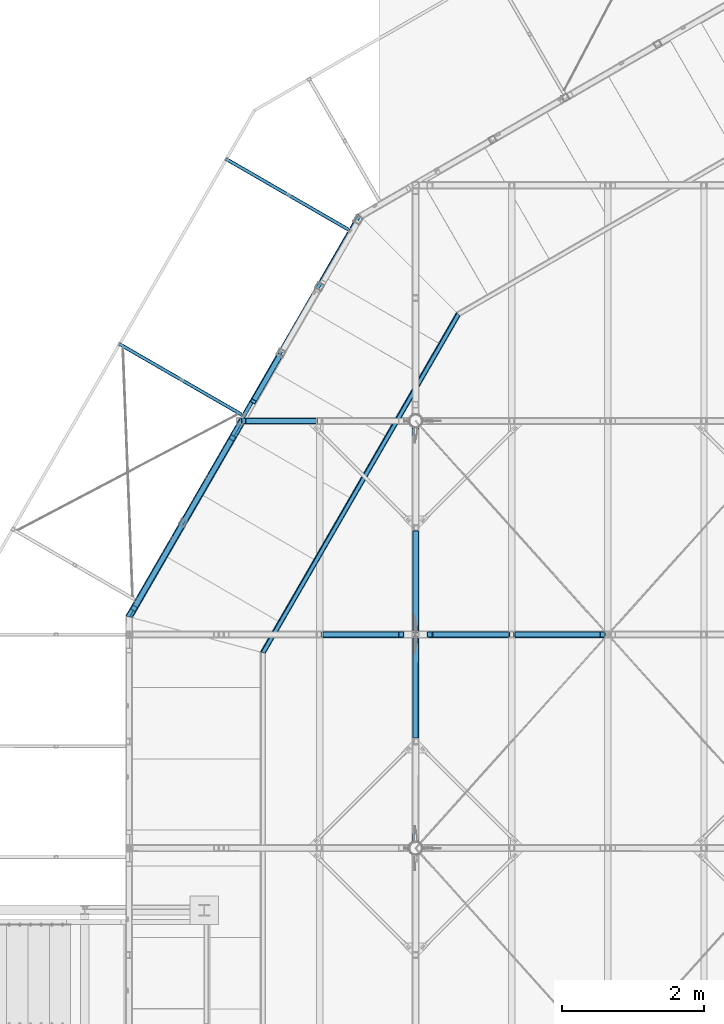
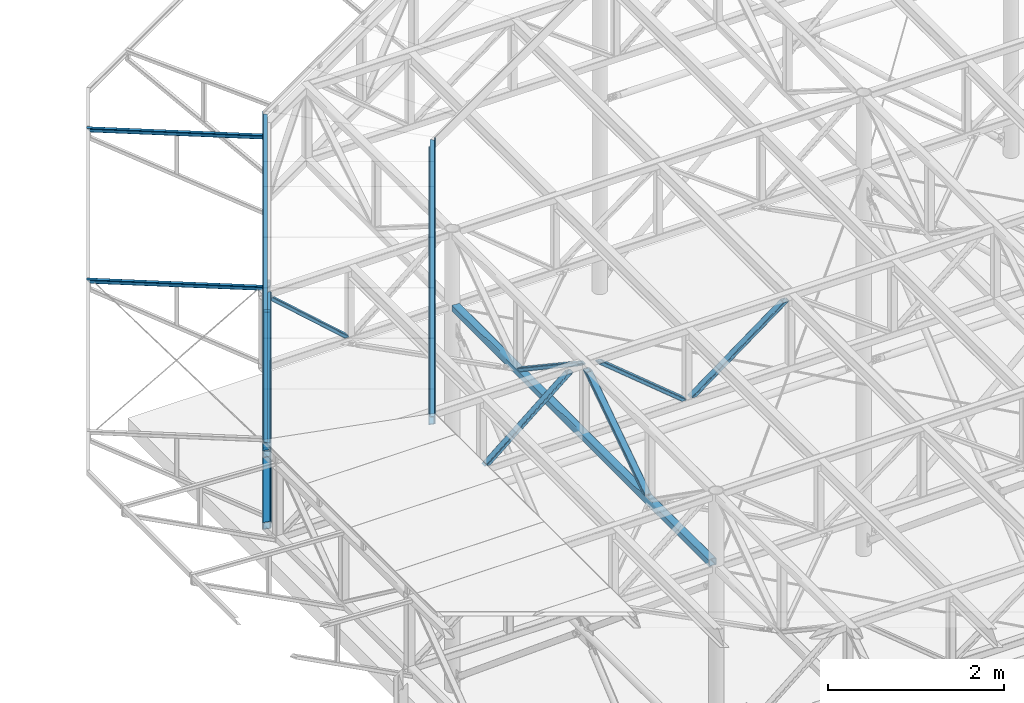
# One storey, part 52 of 132: 17 discrete accessories, 10 elements without a shape of their own.
"""IFC2X3 building model written with IfcOpenShell, lengths in millimetres."""

from ifc_helpers import new_model, si_unit, frame, origin_with_axes, origin_2d_with_axis, place, context, subcontext, project, spatial, hollow_rectangle, circle, l_section, extrude, boolean, clip, halfspace, material, type_object, element, aggregate, save


model = new_model("IFC2X3")

# Units and contexts
model_context = context("Model", 3, precision=1e-05, world=origin_with_axes())
body_context = subcontext(model_context, "Body", "Model", "MODEL_VIEW")
ifc_project = project(units=[si_unit("LENGTHUNIT", "METRE", prefix="MILLI"), si_unit("AREAUNIT", "SQUARE_METRE"), si_unit("VOLUMEUNIT", "CUBIC_METRE"), si_unit("MASSUNIT", "GRAM", prefix="KILO"), si_unit("TIMEUNIT", "SECOND"), si_unit("PLANEANGLEUNIT", "RADIAN"), si_unit("SOLIDANGLEUNIT", "STERADIAN"), si_unit("THERMODYNAMICTEMPERATUREUNIT", "DEGREE_CELSIUS"), si_unit("LUMINOUSINTENSITYUNIT", "LUMEN")], contexts=[model_context])

# Site, building, storey
site_placement = place(None, origin_with_axes())
site = spatial("IfcSite", under=ifc_project, at=site_placement, Name="Budowa", CompositionType="ELEMENT")
building_placement = place(site_placement, origin_with_axes())
building = spatial("IfcBuilding", under=site, at=building_placement, Name="Undefined", CompositionType="ELEMENT")
storey_placement = place(building_placement, origin_with_axes())
storey = spatial("IfcBuildingStorey", under=building, at=storey_placement, Name="Undefined", CompositionType="ELEMENT", Elevation=0.0)

# Assembly, discrete accessories
assembly_1_placement = place(storey_placement, origin_with_axes())
assembly_1 = element("IfcElementAssembly", 1, at=assembly_1_placement, inside=storey, Name="Steel Assembly", AssemblyPlace="NOTDEFINED", PredefinedType="RIGID_FRAME")
ifc_material = material(Name="STEEL/S235")
discrete_accessory_type = type_object("IfcDiscreteAccessoryType", Name="BEAM")
discrete_accessory_1_placement = place(assembly_1_placement, frame((3238.26153930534, 20897.7179420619, 14004.0), z_axis=(0.866033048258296, -0.499986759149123, 0.0), x_axis=(-0.499986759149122, -0.866033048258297, 0.0)))
discrete_accessory_1 = element("IfcDiscreteAccessory", 2, at=discrete_accessory_1_placement, type_object=discrete_accessory_type, material=ifc_material, Name="BEAM", ObjectType="L60*40*6", context=body_context, shape_type="Clipping", body=[
    clip(clip(extrude(l_section(Depth=60.0, Width=40.0, Thickness=6.0, FilletRadius=6.0, EdgeRadius=3.0, at=origin_2d_with_axis()), frame((6568.82853988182, 1.81898940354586e-12, 0.0), z_axis=(-1.0, 0.0, 0.0), x_axis=(0.0, -1.0, 0.0)), (0.0, 0.0, 1.0), 6613.27), halfspace(frame((6524.38602636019, 1.81898940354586e-12, -29.9999999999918), z_axis=(0.965927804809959, 0.0, 0.258811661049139), x_axis=(0.0, -1.0, 0.0)), False)), halfspace(frame((16.0785564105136, 1.81898940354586e-12, 30.000000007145), z_axis=(-0.965919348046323, 0.0, 0.258843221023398), x_axis=(0.0, -1.0, 0.0)), False)),
])
discrete_accessory_2_placement = place(assembly_1_placement, frame((4623.25244169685, 19492.5925759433, 13965.0), z_axis=(-0.86602545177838, 0.499999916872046, 0.0), x_axis=(-0.500000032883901, -0.866025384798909, 0.0)))
discrete_accessory_2 = element("IfcDiscreteAccessory", 3, at=discrete_accessory_2_placement, type_object=discrete_accessory_type, material=ifc_material, Name="BEAM", ObjectType="L50*6", context=body_context, shape_type="Clipping", body=[
    clip(clip(extrude(l_section(Depth=50.0, Width=50.0, Thickness=6.0, FilletRadius=7.0, EdgeRadius=3.5, at=origin_2d_with_axis()), frame((5526.24049167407, 0.0, 0.0), z_axis=(-1.0, 0.0, 0.0), x_axis=(0.0, -1.0, 0.0)), (0.0, 0.0, 1.0), 5576.68), halfspace(frame((5489.20494173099, 0.0, 25.0000000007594), z_axis=(0.965925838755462, 0.0, -0.2588189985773), x_axis=(0.0, 1.0, 0.0)), False)), halfspace(frame((-0.00287258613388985, 0.0, -25.0000000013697), z_axis=(-0.965925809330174, 0.0, -0.258819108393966), x_axis=(0.0, 1.0, 0.0)), False)),
])
aggregate(assembly_1, [discrete_accessory_1, discrete_accessory_2])

# Assembly, discrete accessory
assembly_2_placement = place(storey_placement, origin_with_axes())
assembly_2 = element("IfcElementAssembly", 4, at=assembly_2_placement, inside=storey, Name="Steel Assembly", AssemblyPlace="NOTDEFINED", PredefinedType="RIGID_FRAME")
discrete_accessory_3_placement = place(assembly_2_placement, frame((4619.01701715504, 19492.2566048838, 13955.0), z_axis=(0.0, 0.0, 1.0), x_axis=(-0.500000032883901, -0.866025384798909, 0.0)))
discrete_accessory_3 = element("IfcDiscreteAccessory", 5, at=discrete_accessory_3_placement, type_object=discrete_accessory_type, material=ifc_material, Name="BEAM", ObjectType="L150*75*9", context=body_context, shape_type="Clipping", body=[
    clip(clip(extrude(l_section(Depth=150.0, Width=75.0, Thickness=9.0, FilletRadius=10.5, EdgeRadius=5.5, at=origin_2d_with_axis()), frame((5546.63678901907, -3.07900193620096e-13, 0.0), z_axis=(-1.0, 0.0, 0.0), x_axis=(0.0, -1.0, 0.0)), (0.0, 0.0, 1.0), 5622.29), halfspace(frame((5491.08345655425, -37.500000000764, 0.0), z_axis=(0.965925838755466, 0.258818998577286, 0.0), x_axis=(0.0, 0.0, 1.0)), False)), halfspace(frame((1.9117578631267e-08, 37.5000000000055, -1.81898940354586e-12), z_axis=(-0.965925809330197, 0.258819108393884, 0.0), x_axis=(0.0, 0.0, 1.0)), False)),
])
aggregate(assembly_2, [discrete_accessory_3])

assembly_3_placement = place(storey_placement, origin_with_axes())
assembly_3 = element("IfcElementAssembly", 6, at=assembly_3_placement, inside=storey, Name="Steel Assembly", AssemblyPlace="NOTDEFINED", PredefinedType="RIGID_FRAME")
discrete_accessory_4_placement = place(assembly_3_placement, frame((1580.84141965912, 18089.3855184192, 13855.0311915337), z_axis=(0.499969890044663, 0.866042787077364, 0.0), x_axis=(-0.864962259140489, 0.499346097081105, 0.0499376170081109)))
discrete_accessory_4 = element("IfcDiscreteAccessory", 7, at=discrete_accessory_4_placement, type_object=discrete_accessory_type, material=ifc_material, Name="BEAM", ObjectType="SHS50*4", context=body_context, shape_type="Clipping", body=[
    clip(clip(extrude(hollow_rectangle(XDim=50.0, YDim=50.0, WallThickness=4.0, InnerFilletRadius=4.0, OuterFilletRadius=8.0, at=origin_2d_with_axis()), frame((2047.80222226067, -1.81898940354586e-12, -1.00153404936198e-12), z_axis=(-1.0, 0.0, 0.0), x_axis=(0.0, -1.0, 0.0)), (0.0, 0.0, 1.0), 2120.54), halfspace(frame((2002.59894631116, 25.0000000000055, -2.91038304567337e-11), z_axis=(-0.689225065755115, 0.724547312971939, 0.0), x_axis=(0.0, 0.0, 1.0)), True)), halfspace(frame((-1.21290213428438e-08, 25.0000000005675, 73.1665326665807), z_axis=(-0.998752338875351, 0.0499376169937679, 0.0), x_axis=(-0.0499376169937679, -0.998752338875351, 0.0)), False)),
])
aggregate(assembly_3, [discrete_accessory_4])

assembly_4_placement = place(storey_placement, origin_with_axes())
assembly_4 = element("IfcElementAssembly", 8, at=assembly_4_placement, inside=storey, Name="Steel Assembly", AssemblyPlace="NOTDEFINED", PredefinedType="RIGID_FRAME")
discrete_accessory_5_placement = place(assembly_4_placement, frame((3080.80169624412, 20687.484663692, 13855.0311915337), z_axis=(0.499969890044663, 0.866042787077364, 0.0), x_axis=(-0.864962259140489, 0.499346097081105, 0.0499376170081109)))
discrete_accessory_5 = element("IfcDiscreteAccessory", 9, at=discrete_accessory_5_placement, type_object=discrete_accessory_type, material=ifc_material, Name="BEAM", ObjectType="SHS50*4", context=body_context, shape_type="Clipping", body=[
    clip(clip(extrude(hollow_rectangle(XDim=50.0, YDim=50.0, WallThickness=4.0, InnerFilletRadius=4.0, OuterFilletRadius=8.0, at=origin_2d_with_axis()), frame((2047.80222226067, -1.81898940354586e-12, -1.00153404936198e-12), z_axis=(-1.0, 0.0, 0.0), x_axis=(0.0, -1.0, 0.0)), (0.0, 0.0, 1.0), 2120.54), halfspace(frame((2002.59894631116, 25.0000000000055, -2.91038304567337e-11), z_axis=(-0.689225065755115, 0.724547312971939, 0.0), x_axis=(0.0, 0.0, 1.0)), True)), halfspace(frame((-1.21290213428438e-08, 25.0000000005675, 73.1665326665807), z_axis=(-0.998752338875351, 0.0499376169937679, 0.0), x_axis=(-0.0499376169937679, -0.998752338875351, 0.0)), False)),
])
aggregate(assembly_4, [discrete_accessory_5])

# Assembly, discrete accessories
assembly_5_placement = place(storey_placement, origin_with_axes())
assembly_5 = element("IfcElementAssembly", 10, at=assembly_5_placement, inside=storey, Name="Steel Assembly", AssemblyPlace="NOTDEFINED", PredefinedType="RIGID_FRAME")
discrete_accessory_6_placement = place(assembly_5_placement, frame((760.301212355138, 16565.565121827, 12830.0000000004), z_axis=(-0.86602545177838, 0.499999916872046, 0.0), x_axis=(0.412062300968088, 0.713712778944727, 0.566408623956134)))
solid_1 = boolean("DIFFERENCE", boolean("DIFFERENCE", extrude(hollow_rectangle(XDim=90.0, YDim=90.0, WallThickness=4.0, InnerFilletRadius=4.0, OuterFilletRadius=8.0, at=origin_2d_with_axis()), frame((538.088192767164, -782.918320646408, 9.82236597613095e-08), z_axis=(-0.566408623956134, 0.824124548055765, -1.04792036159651e-10), x_axis=(0.0, 0.0, -1.0)), (0.0, 0.0, 1.0), 900.0), halfspace(frame((-286.03635719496, -1349.32694591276, 5.13791746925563e-08), z_axis=(-0.566408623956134, 0.824124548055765, -1.04792036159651e-10), x_axis=(0.824124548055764, 0.566408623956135, 1.52471329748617e-10)), True)), halfspace(frame((-795.804118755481, -607.614852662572, 1.45691046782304e-07), z_axis=(0.566408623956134, -0.824124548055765, 1.04790926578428e-10), x_axis=(0.824124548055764, 0.566408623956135, 1.52471329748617e-10)), True))
discrete_accessory_6 = element("IfcDiscreteAccessory", 11, at=discrete_accessory_6_placement, type_object=discrete_accessory_type, material=ifc_material, Name="BEAM", ObjectType="RHS80*40*4", context=body_context, shape_type="CSG", body=[
    boolean("DIFFERENCE", boolean("DIFFERENCE", boolean("DIFFERENCE", extrude(hollow_rectangle(XDim=40.0, YDim=80.0, WallThickness=4.0, InnerFilletRadius=4.0, OuterFilletRadius=8.0, at=origin_2d_with_axis()), frame((1787.39149860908, -1.98440319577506e-13, -3.60765181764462e-12), z_axis=(-1.0, 0.0, 0.0), x_axis=(0.0, -1.0, 0.0)), (0.0, 0.0, 1.0), 1809.27), solid_1), halfspace(frame((1737.18941028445, 41.2062274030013, 999.999999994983), z_axis=(-0.566408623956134, 0.824124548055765, -1.04792036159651e-10), x_axis=(-0.824124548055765, -0.566408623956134, -1.52471329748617e-10)), True)), halfspace(frame((28.3204310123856, -41.2062274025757, 1000.00000000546), z_axis=(0.566408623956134, -0.824124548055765, 1.04790926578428e-10), x_axis=(0.824124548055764, 0.566408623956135, 1.52471329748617e-10)), True)),
])
discrete_accessory_7_placement = place(assembly_5_placement, frame((760.301212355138, 16565.565121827, 12830.0000000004), z_axis=(-0.86602545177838, 0.499999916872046, 0.0), x_axis=(-0.412062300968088, -0.713712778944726, 0.566408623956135)))
solid_2 = boolean("DIFFERENCE", boolean("DIFFERENCE", extrude(hollow_rectangle(XDim=90.0, YDim=90.0, WallThickness=4.0, InnerFilletRadius=4.0, OuterFilletRadius=8.0, at=origin_2d_with_axis()), frame((538.088190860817, 782.918321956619, -1.00875396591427e-07), z_axis=(-0.566408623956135, -0.824124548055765, 1.04791647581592e-10), x_axis=(0.0, 0.0, -1.0)), (0.0, 0.0, 1.0), 900.0), halfspace(frame((1362.21274082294, 216.509696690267, 2.50475750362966e-07), z_axis=(-0.566408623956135, -0.824124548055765, 1.04791647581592e-10), x_axis=(-0.824124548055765, 0.566408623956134, 1.52474967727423e-10)), True)), halfspace(frame((852.444979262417, -525.202396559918, 1.56162059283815e-07), z_axis=(0.566408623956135, 0.824124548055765, -1.04794017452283e-10), x_axis=(-0.824124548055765, 0.566408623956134, 1.52474967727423e-10)), True))
discrete_accessory_7 = element("IfcDiscreteAccessory", 12, at=discrete_accessory_7_placement, type_object=discrete_accessory_type, material=ifc_material, Name="BEAM", ObjectType="RHS80*40*4", context=body_context, shape_type="CSG", body=[
    boolean("DIFFERENCE", boolean("DIFFERENCE", boolean("DIFFERENCE", extrude(hollow_rectangle(XDim=40.0, YDim=80.0, WallThickness=4.0, InnerFilletRadius=4.0, OuterFilletRadius=8.0, at=origin_2d_with_axis()), frame((1787.39149860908, -1.98440319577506e-13, -3.60765181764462e-12), z_axis=(-1.0, 0.0, 0.0), x_axis=(0.0, -1.0, 0.0)), (0.0, 0.0, 1.0), 1809.27), solid_2), halfspace(frame((1737.18941065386, -41.2062274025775, 1000.00000000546), z_axis=(-0.566408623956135, -0.824124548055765, 1.04791647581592e-10), x_axis=(0.824124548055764, -0.566408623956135, -1.52471329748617e-10)), True)), halfspace(frame((28.3204313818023, 41.2062274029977, 999.999999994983), z_axis=(0.566408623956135, 0.824124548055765, -1.04794017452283e-10), x_axis=(-0.824124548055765, 0.566408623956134, 1.52474967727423e-10)), True)),
])
discrete_accessory_8_placement = place(assembly_5_placement, frame((1545.40126904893, 17925.3981897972, 12830.0), z_axis=(-0.86602545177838, 0.499999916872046, 0.0), x_axis=(-0.500000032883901, -0.866025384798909, 0.0)))
discrete_accessory_8 = element("IfcDiscreteAccessory", 13, at=discrete_accessory_8_placement, type_object=discrete_accessory_type, material=ifc_material, Name="BEAM", ObjectType="SHS100*8", context=body_context, shape_type="Clipping", body=[
    clip(clip(extrude(hollow_rectangle(XDim=100.0, YDim=100.0, WallThickness=8.0, InnerFilletRadius=8.0, OuterFilletRadius=16.0, at=origin_2d_with_axis()), frame((3156.92730982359, 0.0, 0.0), z_axis=(-1.0, 0.0, 0.0), x_axis=(0.0, -1.0, 0.0)), (0.0, 0.0, 1.0), 3251.23), halfspace(frame((3104.20001122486, 0.0, 49.99999999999), z_axis=(0.965925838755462, 0.0, -0.2588189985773), x_axis=(0.0, 1.0, 0.0)), False)), halfspace(frame((0.518048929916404, 50.0, 49.7009042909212), z_axis=(0.866025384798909, 0.0, -0.5000000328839), x_axis=(-0.5000000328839, 0.0, -0.866025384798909)), True)),
])
discrete_accessory_9_placement = place(assembly_5_placement, frame((1545.40126904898, 17925.3981897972, 13830.0), z_axis=(-0.86602545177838, 0.499999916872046, 0.0), x_axis=(-0.500000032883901, -0.866025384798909, 0.0)))
discrete_accessory_9 = element("IfcDiscreteAccessory", 14, at=discrete_accessory_9_placement, type_object=discrete_accessory_type, material=ifc_material, Name="BEAM", ObjectType="SHS100*8", context=body_context, shape_type="Clipping", body=[
    clip(clip(extrude(hollow_rectangle(XDim=100.0, YDim=100.0, WallThickness=8.0, InnerFilletRadius=8.0, OuterFilletRadius=16.0, at=origin_2d_with_axis()), frame((3156.92730982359, 0.0, 0.0), z_axis=(-1.0, 0.0, 0.0), x_axis=(0.0, -1.0, 0.0)), (0.0, 0.0, 1.0), 3251.23), halfspace(frame((3104.20001122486, 0.0, 49.99999999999), z_axis=(0.965925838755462, 0.0, -0.2588189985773), x_axis=(0.0, 1.0, 0.0)), False)), halfspace(frame((0.518048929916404, 50.0, 49.7009042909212), z_axis=(0.866025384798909, 0.0, -0.5000000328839), x_axis=(-0.5000000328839, 0.0, -0.866025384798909)), True)),
])
aggregate(assembly_5, [discrete_accessory_6, discrete_accessory_7, discrete_accessory_8, discrete_accessory_9])

# Assembly, discrete accessory
assembly_6_placement = place(storey_placement, origin_with_axes())
assembly_6 = element("IfcElementAssembly", 15, at=assembly_6_placement, inside=storey, Name="Steel Assembly", AssemblyPlace="NOTDEFINED", PredefinedType="RIGID_FRAME")
discrete_accessory_10_placement = place(assembly_6_placement, frame((1725.39844916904, 18237.3625633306, 13830.0000000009), z_axis=(-0.86602545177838, 0.499999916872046, 0.0), x_axis=(0.317961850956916, 0.550726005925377, -0.771751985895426)))
solid_3 = boolean("DIFFERENCE", boolean("DIFFERENCE", extrude(hollow_rectangle(XDim=100.0, YDim=100.0, WallThickness=4.0, InnerFilletRadius=4.0, OuterFilletRadius=8.0, at=origin_2d_with_axis()), frame((562.315003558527, -603.795327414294, 8.65720911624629e-08), z_axis=(0.771751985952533, 0.63592363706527, -7.13974205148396e-11), x_axis=(-0.635923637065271, 0.771751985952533, 5.8831574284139e-11)), (0.0, 0.0, 1.0), 900.0), halfspace(frame((562.315003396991, -603.795327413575, 1000.00000008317), z_axis=(0.771751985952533, 0.63592363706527, -7.13974205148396e-11), x_axis=(0.0, 0.0, -1.0)), True)), halfspace(frame((1256.89179070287, -31.4640539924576, 1000.00000019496), z_axis=(-0.771751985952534, -0.635923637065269, 7.1397709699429e-11), x_axis=(0.0, 0.0, -1.0)), True))
discrete_accessory_10 = element("IfcDiscreteAccessory", 16, at=discrete_accessory_10_placement, type_object=discrete_accessory_type, material=ifc_material, Name="BEAM", ObjectType="RHS80*40*4", context=body_context, shape_type="CSG", body=[
    boolean("DIFFERENCE", boolean("DIFFERENCE", boolean("DIFFERENCE", extrude(hollow_rectangle(XDim=40.0, YDim=80.0, WallThickness=4.0, InnerFilletRadius=4.0, OuterFilletRadius=8.0, at=origin_2d_with_axis()), frame((1286.18037682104, -1.81898940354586e-12, 9.30315642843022e-13), z_axis=(-1.0, 0.0, 0.0), x_axis=(0.0, -1.0, 0.0)), (0.0, 0.0, 1.0), 1276.61), solid_3), halfspace(frame((1257.16546421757, -31.7961818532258, 1000.0000000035), z_axis=(-0.771751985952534, -0.635923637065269, 7.1397709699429e-11), x_axis=(0.635923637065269, -0.771751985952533, -5.88306647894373e-11)), True)), halfspace(frame((38.5875993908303, 31.7961818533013, 999.999999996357), z_axis=(0.771751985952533, 0.63592363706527, -7.13974205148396e-11), x_axis=(-0.635923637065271, 0.771751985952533, 5.8831574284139e-11)), True)),
])
aggregate(assembly_6, [discrete_accessory_10])

assembly_7_placement = place(storey_placement, origin_with_axes())
assembly_7 = element("IfcElementAssembly", 17, at=assembly_7_placement, inside=storey, Name="Steel Assembly", AssemblyPlace="NOTDEFINED", PredefinedType="RIGID_FRAME")
discrete_accessory_11_placement = place(assembly_7_placement, frame((1552.09999979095, 18000.0000000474, 13830.0000000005), z_axis=(0.0, -1.0, 0.0), x_axis=(0.747115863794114, 0.0, -0.664693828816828)))
solid_4 = boolean("DIFFERENCE", boolean("DIFFERENCE", extrude(hollow_rectangle(XDim=100.0, YDim=100.0, WallThickness=8.0, InnerFilletRadius=8.0, OuterFilletRadius=16.0, at=origin_2d_with_axis()), frame((631.459137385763, -709.760070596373, 3.71073838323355e-10), z_axis=(-0.664693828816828, 0.747115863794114, 0.0), x_axis=(0.0, 0.0, 1.0)), (0.0, 0.0, 1.0), 900.0), halfspace(frame((1378.57500117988, -45.0662417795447, 3.71073838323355e-10), z_axis=(-0.664693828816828, 0.747115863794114, 0.0), x_axis=(-0.747115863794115, -0.664693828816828, 0.0)), True)), halfspace(frame((780.350555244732, 627.338035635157, 3.71073838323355e-10), z_axis=(0.664693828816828, -0.747115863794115, 0.0), x_axis=(-0.747115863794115, -0.664693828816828, 0.0)), True))
solid_5 = boolean("DIFFERENCE", boolean("DIFFERENCE", extrude(hollow_rectangle(XDim=90.0, YDim=90.0, WallThickness=6.0, InnerFilletRadius=6.0, OuterFilletRadius=12.0, at=origin_2d_with_axis()), frame((1471.21736829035, 37.3557929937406, 3.71073838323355e-10), z_axis=(-0.664693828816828, 0.747115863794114, 0.0), x_axis=(0.0, 0.0, 1.0)), (0.0, 0.0, 1.0), 900.0), halfspace(frame((2218.33323208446, 702.049621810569, 3.71073838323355e-10), z_axis=(-0.664693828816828, 0.747115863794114, 0.0), x_axis=(-0.747115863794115, -0.664693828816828, 0.0)), True)), halfspace(frame((1620.10878614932, 1374.45389922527, 3.71073838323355e-10), z_axis=(0.664693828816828, -0.747115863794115, 0.0), x_axis=(-0.747115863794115, -0.664693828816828, 0.0)), True))
discrete_accessory_11 = element("IfcDiscreteAccessory", 18, at=discrete_accessory_11_placement, type_object=discrete_accessory_type, material=ifc_material, Name="BEAM", ObjectType="RHS90*50*5", context=body_context, shape_type="CSG", body=[
    boolean("DIFFERENCE", boolean("DIFFERENCE", boolean("DIFFERENCE", boolean("DIFFERENCE", extrude(hollow_rectangle(XDim=50.0, YDim=90.0, WallThickness=5.0, InnerFilletRadius=7.5, OuterFilletRadius=12.5, at=origin_2d_with_axis()), frame((1442.35927093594, 0.0, 0.0), z_axis=(-1.0, 0.0, 0.0), x_axis=(0.0, -1.0, 0.0)), (0.0, 0.0, 1.0), 1380.27), solid_4), solid_5), halfspace(frame((1471.21736851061, 37.3557931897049, 1000.0), z_axis=(-0.664693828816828, 0.747115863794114, 0.0), x_axis=(-0.747115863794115, -0.664693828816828, 0.0)), True)), halfspace(frame((33.2346914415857, -37.3557931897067, 1000.0), z_axis=(0.664693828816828, -0.747115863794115, 0.0), x_axis=(0.747115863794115, 0.664693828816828, 0.0)), True)),
])
aggregate(assembly_7, [discrete_accessory_11])

assembly_8_placement = place(storey_placement, origin_with_axes())
assembly_8 = element("IfcElementAssembly", 19, at=assembly_8_placement, inside=storey, Name="Steel Assembly", AssemblyPlace="NOTDEFINED", PredefinedType="RIGID_FRAME")
discrete_accessory_12_placement = place(assembly_8_placement, frame((3884.0999999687, 15000.0000000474, 13830.0000000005), z_axis=(0.0, -1.0, 0.0), x_axis=(-0.77030791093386, 0.0, -0.637672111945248)))
solid_6 = boolean("DIFFERENCE", boolean("DIFFERENCE", extrude(hollow_rectangle(XDim=90.0, YDim=90.0, WallThickness=6.0, InnerFilletRadius=6.0, OuterFilletRadius=12.0, at=origin_2d_with_axis()), frame((1536.32046276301, -38.5153958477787, 3.71073838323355e-10), z_axis=(-0.637672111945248, -0.770307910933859, 0.0), x_axis=(0.0, 0.0, 1.0)), (0.0, 0.0, 1.0), 900.0), halfspace(frame((766.012551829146, 599.156716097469, 3.71073838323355e-10), z_axis=(-0.637672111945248, -0.770307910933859, 0.0), x_axis=(0.77030791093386, -0.637672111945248, 0.0)), True)), halfspace(frame((192.107651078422, -94.1204037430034, 3.71073838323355e-10), z_axis=(0.637672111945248, 0.770307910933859, 0.0), x_axis=(0.77030791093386, -0.637672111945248, 0.0)), True))
discrete_accessory_12 = element("IfcDiscreteAccessory", 20, at=discrete_accessory_12_placement, type_object=discrete_accessory_type, material=ifc_material, Name="BEAM", ObjectType="RHS90*50*5", context=body_context, shape_type="CSG", body=[
    boolean("DIFFERENCE", boolean("DIFFERENCE", boolean("DIFFERENCE", extrude(hollow_rectangle(XDim=50.0, YDim=90.0, WallThickness=5.0, InnerFilletRadius=7.5, OuterFilletRadius=12.5, at=origin_2d_with_axis()), frame((1532.27723418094, -9.9455317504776e-13, 0.0), z_axis=(-1.0, 0.0, 0.0), x_axis=(0.0, -1.0, 0.0)), (0.0, 0.0, 1.0), 1496.35), solid_6), halfspace(frame((1536.3204623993, -38.515395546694, 1000.0), z_axis=(-0.637672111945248, -0.770307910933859, 0.0), x_axis=(0.77030791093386, -0.637672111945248, 0.0)), True)), halfspace(frame((31.8836055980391, 38.5153955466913, 1000.0), z_axis=(0.637672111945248, 0.770307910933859, 0.0), x_axis=(-0.770307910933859, 0.637672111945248, 0.0)), True)),
])
aggregate(assembly_8, [discrete_accessory_12])

# Assembly, discrete accessories
assembly_9_placement = place(storey_placement, origin_with_axes())
assembly_9 = element("IfcElementAssembly", 21, at=assembly_9_placement, inside=storey, Name="Steel Assembly", AssemblyPlace="NOTDEFINED", PredefinedType="RIGID_FRAME")
discrete_accessory_13_placement = place(assembly_9_placement, frame((4165.99999993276, 15000.0000000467, 13830.0), z_axis=(0.0, -1.0, 0.0), x_axis=(0.770567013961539, 0.0, -0.637358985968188)))
solid_7 = boolean("DIFFERENCE", boolean("DIFFERENCE", extrude(hollow_rectangle(XDim=90.0, YDim=90.0, WallThickness=6.0, InnerFilletRadius=6.0, OuterFilletRadius=12.0, at=origin_2d_with_axis()), frame((1537.1065565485, 38.528350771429, -6.22094376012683e-10), z_axis=(-0.637358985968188, 0.770567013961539, 0.0), x_axis=(-0.770567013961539, -0.637358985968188, 0.0)), (0.0, 0.0, 1.0), 900.0), halfspace(frame((1537.1065565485, 38.5283507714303, 999.999999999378), z_axis=(-0.637358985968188, 0.770567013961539, 0.0), x_axis=(-0.770567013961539, -0.637358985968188, 0.0)), True)), halfspace(frame((963.483469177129, 732.038663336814, 999.999999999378), z_axis=(0.637358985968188, -0.770567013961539, 0.0), x_axis=(0.770567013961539, 0.637358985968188, 0.0)), True))
discrete_accessory_13 = element("IfcDiscreteAccessory", 22, at=discrete_accessory_13_placement, type_object=discrete_accessory_type, material=ifc_material, Name="BEAM", ObjectType="RHS90*50*5", context=body_context, shape_type="CSG", body=[
    boolean("DIFFERENCE", boolean("DIFFERENCE", boolean("DIFFERENCE", extrude(hollow_rectangle(XDim=50.0, YDim=90.0, WallThickness=5.0, InnerFilletRadius=7.5, OuterFilletRadius=12.5, at=origin_2d_with_axis()), frame((1533.07734352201, 2.27373675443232e-12, 0.0), z_axis=(-1.0, 0.0, 0.0), x_axis=(0.0, -1.0, 0.0)), (0.0, 0.0, 1.0), 1497.18), solid_7), halfspace(frame((1537.1065565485, 38.5283507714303, 999.999999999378), z_axis=(-0.637358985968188, 0.770567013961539, 0.0), x_axis=(-0.770567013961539, -0.637358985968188, 0.0)), True)), halfspace(frame((31.867949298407, -38.5283506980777, 1000.0), z_axis=(0.637358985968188, -0.770567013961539, 0.0), x_axis=(0.770567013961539, 0.637358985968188, 0.0)), True)),
])
discrete_accessory_14_placement = place(assembly_9_placement, frame((6724.99999993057, 15000.0000000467, 13830.0), z_axis=(0.0, -1.0, 0.0), x_axis=(-0.803557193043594, 0.0, -0.595227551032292)))
solid_8 = boolean("DIFFERENCE", boolean("DIFFERENCE", extrude(hollow_rectangle(XDim=90.0, YDim=90.0, WallThickness=6.0, InnerFilletRadius=6.0, OuterFilletRadius=12.0, at=origin_2d_with_axis()), frame((565.466173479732, 763.379333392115, -6.22094376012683e-10), z_axis=(-0.595227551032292, -0.803557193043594, 0.0), x_axis=(0.803557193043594, -0.595227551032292, 0.0)), (0.0, 0.0, 1.0), 900.0), halfspace(frame((565.46617347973, 763.379333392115, 999.999999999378), z_axis=(-0.595227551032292, -0.803557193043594, 0.0), x_axis=(0.803557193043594, -0.595227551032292, 0.0)), True)), halfspace(frame((29.7613775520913, 40.1778596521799, 1000.0), z_axis=(0.595227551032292, 0.803557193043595, 0.0), x_axis=(-0.803557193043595, 0.595227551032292, 0.0)), True))
solid_9 = boolean("DIFFERENCE", boolean("DIFFERENCE", extrude(hollow_rectangle(XDim=90.0, YDim=90.0, WallThickness=6.0, InnerFilletRadius=6.0, OuterFilletRadius=12.0, at=origin_2d_with_axis()), frame((1650.26838408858, -40.1778605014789, -6.22094376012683e-10), z_axis=(-0.595227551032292, -0.803557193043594, 0.0), x_axis=(0.803557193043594, -0.595227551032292, 0.0)), (0.0, 0.0, 1.0), 900.0), halfspace(frame((1650.2683829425, -40.1778596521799, 1000.0), z_axis=(-0.595227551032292, -0.803557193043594, 0.0), x_axis=(0.803557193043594, -0.595227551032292, 0.0)), True)), halfspace(frame((1114.56358815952, -763.379334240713, 999.999999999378), z_axis=(0.595227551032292, 0.803557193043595, 0.0), x_axis=(-0.803557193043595, 0.595227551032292, 0.0)), True))
discrete_accessory_14 = element("IfcDiscreteAccessory", 23, at=discrete_accessory_14_placement, type_object=discrete_accessory_type, material=ifc_material, Name="BEAM", ObjectType="RHS90*50*5", context=body_context, shape_type="CSG", body=[
    boolean("DIFFERENCE", boolean("DIFFERENCE", boolean("DIFFERENCE", boolean("DIFFERENCE", extrude(hollow_rectangle(XDim=50.0, YDim=90.0, WallThickness=5.0, InnerFilletRadius=7.5, OuterFilletRadius=12.5, at=origin_2d_with_axis()), frame((1632.54994793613, 0.0, 0.0), z_axis=(-1.0, 0.0, 0.0), x_axis=(0.0, -1.0, 0.0)), (0.0, 0.0, 1.0), 1585.07), solid_8), solid_9), halfspace(frame((1650.2683829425, -40.1778596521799, 1000.0), z_axis=(-0.595227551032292, -0.803557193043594, 0.0), x_axis=(0.803557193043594, -0.595227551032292, 0.0)), True)), halfspace(frame((29.7613775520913, 40.1778596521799, 1000.0), z_axis=(0.595227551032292, 0.803557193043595, 0.0), x_axis=(-0.803557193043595, 0.595227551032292, 0.0)), True)),
])
aggregate(assembly_9, [discrete_accessory_13, discrete_accessory_14])

assembly_10_placement = place(storey_placement, origin_with_axes())
assembly_10 = element("IfcElementAssembly", 24, at=assembly_10_placement, inside=storey, Name="Steel Assembly", AssemblyPlace="NOTDEFINED", PredefinedType="RIGID_FRAME")
discrete_accessory_15_placement = place(assembly_10_placement, frame((4024.99999991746, 16499.8000000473, 12829.9999999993), z_axis=(1.0, 0.0, 0.0), x_axis=(0.0, -0.832050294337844, 0.554700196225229)))
solid_10 = boolean("DIFFERENCE", boolean("DIFFERENCE", extrude(hollow_rectangle(XDim=90.0, YDim=90.0, WallThickness=6.0, InnerFilletRadius=6.0, OuterFilletRadius=12.0, at=origin_2d_with_axis()), frame((27.5685997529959, -41.7134547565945, 2.20825313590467e-09), z_axis=(0.554700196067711, -0.832050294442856, 1.11090858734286e-10), x_axis=(0.832050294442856, 0.554700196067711, 1.66635594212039e-10)), (0.0, 0.0, 1.0), 900.0), halfspace(frame((27.5685997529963, -41.7134547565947, 1000.00000000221), z_axis=(0.554700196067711, -0.832050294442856, 1.11090858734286e-10), x_axis=(0.832050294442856, 0.554700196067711, 1.66635594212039e-10)), True)), halfspace(frame((526.798776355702, -790.558719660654, 1000.00000000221), z_axis=(-0.554700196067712, 0.832050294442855, -1.1109021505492e-10), x_axis=(-0.832050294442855, -0.554700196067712, -1.66634890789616e-10)), True))
solid_11 = boolean("DIFFERENCE", boolean("DIFFERENCE", extrude(hollow_rectangle(XDim=90.0, YDim=90.0, WallThickness=6.0, InnerFilletRadius=6.0, OuterFilletRadius=12.0, at=origin_2d_with_axis()), frame((1275.64404125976, 790.336839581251, 2.20825313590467e-09), z_axis=(0.554700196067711, -0.832050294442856, 1.11090858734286e-10), x_axis=(0.832050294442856, 0.554700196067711, 1.66635594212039e-10)), (0.0, 0.0, 1.0), 900.0), halfspace(frame((1275.64404125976, 790.33683958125, 1000.00000000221), z_axis=(0.554700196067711, -0.832050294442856, 1.11090858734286e-10), x_axis=(0.832050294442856, 0.554700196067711, 1.66635594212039e-10)), True)), halfspace(frame((1774.87421786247, 41.4915746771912, 1000.00000000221), z_axis=(-0.554700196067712, 0.832050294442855, -1.1109021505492e-10), x_axis=(-0.832050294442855, -0.554700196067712, -1.66634890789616e-10)), True))
discrete_accessory_15 = element("IfcDiscreteAccessory", 25, at=discrete_accessory_15_placement, type_object=discrete_accessory_type, material=ifc_material, Name="BEAM", ObjectType="RHS90*50*5", context=body_context, shape_type="CSG", body=[
    boolean("DIFFERENCE", boolean("DIFFERENCE", boolean("DIFFERENCE", boolean("DIFFERENCE", extrude(hollow_rectangle(XDim=50.0, YDim=90.0, WallThickness=5.0, InnerFilletRadius=7.5, OuterFilletRadius=12.5, at=origin_2d_with_axis()), frame((1763.05910368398, 0.0, 0.0), z_axis=(-1.0, 0.0, 0.0), x_axis=(0.0, -1.0, 0.0)), (0.0, 0.0, 1.0), 1723.34), solid_10), solid_11), halfspace(frame((1775.04062824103, 41.6025147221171, 999.999999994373), z_axis=(-0.554700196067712, 0.832050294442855, -1.1109021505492e-10), x_axis=(-0.832050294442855, -0.554700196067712, -1.66634890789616e-10)), True)), halfspace(frame((27.7350096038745, -41.6025147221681, 1000.00000000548), z_axis=(0.554700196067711, -0.832050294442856, 1.11090858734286e-10), x_axis=(0.832050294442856, 0.554700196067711, 1.66635594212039e-10)), True)),
])
discrete_accessory_16_placement = place(assembly_10_placement, frame((4024.99999991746, 13500.0000000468, 12829.9999999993), z_axis=(1.0, 0.0, 0.0), x_axis=(0.0, 0.832050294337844, 0.554700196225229)))
solid_12 = boolean("DIFFERENCE", boolean("DIFFERENCE", extrude(hollow_rectangle(XDim=90.0, YDim=90.0, WallThickness=6.0, InnerFilletRadius=6.0, OuterFilletRadius=12.0, at=origin_2d_with_axis()), frame((1275.81045145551, -790.447779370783, -2.51850795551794e-07), z_axis=(0.554700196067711, 0.832050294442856, -1.11090858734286e-10), x_axis=(-0.832050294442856, 0.554700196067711, 1.66634595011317e-10)), (0.0, 0.0, 1.0), 900.0), halfspace(frame((1275.81045165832, -790.447779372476, 999.999999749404), z_axis=(0.554700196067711, 0.832050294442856, -1.11090858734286e-10), x_axis=(-0.832050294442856, 0.554700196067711, 1.66634595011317e-10)), True)), halfspace(frame((1775.04062811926, -41.6025143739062, 999.999999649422), z_axis=(-0.554700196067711, -0.832050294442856, 1.11091980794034e-10), x_axis=(0.832050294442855, -0.554700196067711, -1.66634436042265e-10)), True))
solid_13 = boolean("DIFFERENCE", boolean("DIFFERENCE", extrude(hollow_rectangle(XDim=90.0, YDim=90.0, WallThickness=6.0, InnerFilletRadius=6.0, OuterFilletRadius=12.0, at=origin_2d_with_axis()), frame((27.7350097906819, 41.6025147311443, -4.89933715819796e-09), z_axis=(0.554700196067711, 0.832050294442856, -1.11090858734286e-10), x_axis=(-0.832050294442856, 0.554700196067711, 1.66634595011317e-10)), (0.0, 0.0, 1.0), 900.0), halfspace(frame((27.7350099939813, 41.6025147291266, 999.999999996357), z_axis=(0.554700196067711, 0.832050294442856, -1.11090858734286e-10), x_axis=(-0.832050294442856, 0.554700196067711, 1.66634595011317e-10)), True)), halfspace(frame((526.965186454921, 790.447779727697, 999.999999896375), z_axis=(-0.554700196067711, -0.832050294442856, 1.11091980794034e-10), x_axis=(0.832050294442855, -0.554700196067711, -1.66634436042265e-10)), True))
discrete_accessory_16 = element("IfcDiscreteAccessory", 26, at=discrete_accessory_16_placement, type_object=discrete_accessory_type, material=ifc_material, Name="BEAM", ObjectType="RHS90*50*5", context=body_context, shape_type="CSG", body=[
    boolean("DIFFERENCE", boolean("DIFFERENCE", boolean("DIFFERENCE", boolean("DIFFERENCE", extrude(hollow_rectangle(XDim=50.0, YDim=90.0, WallThickness=5.0, InnerFilletRadius=7.5, OuterFilletRadius=12.5, at=origin_2d_with_axis()), frame((1763.05910368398, 0.0, 0.0), z_axis=(-1.0, 0.0, 0.0), x_axis=(0.0, -1.0, 0.0)), (0.0, 0.0, 1.0), 1723.34), solid_12), solid_13), halfspace(frame((1775.04062811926, -41.6025143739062, 999.999999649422), z_axis=(-0.554700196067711, -0.832050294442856, 1.11091980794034e-10), x_axis=(0.832050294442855, -0.554700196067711, -1.66634436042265e-10)), True)), halfspace(frame((27.7350099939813, 41.6025147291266, 999.999999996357), z_axis=(0.554700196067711, 0.832050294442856, -1.11090858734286e-10), x_axis=(-0.832050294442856, 0.554700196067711, 1.66634595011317e-10)), True)),
])
discrete_accessory_17_placement = place(assembly_10_placement, frame((4024.99999991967, 12088.900000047, 12830.0), z_axis=(1.0, 0.0, 0.0), x_axis=(0.0, 1.0, 0.0)))
discrete_accessory_17 = element("IfcDiscreteAccessory", 27, at=discrete_accessory_17_placement, type_object=discrete_accessory_type, material=ifc_material, Name="BEAM", ObjectType="SHS100*8", context=body_context, shape_type="CSG", body=[
    boolean("DIFFERENCE", boolean("DIFFERENCE", boolean("DIFFERENCE", boolean("DIFFERENCE", extrude(hollow_rectangle(XDim=100.0, YDim=100.0, WallThickness=8.0, InnerFilletRadius=8.0, OuterFilletRadius=16.0, at=origin_2d_with_axis()), frame((5911.09999999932, 0.0, 0.0), z_axis=(-1.0, 0.0, 0.0), x_axis=(0.0, -1.0, 0.0)), (0.0, 0.0, 1.0), 6000.0), extrude(circle(Radius=89.9, at=origin_2d_with_axis()), frame((5911.09999999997, 1950.0, 0.0), z_axis=(0.0, -1.0, 0.0), x_axis=(-1.0, 0.0, 0.0)), (0.0, 0.0, 1.0), 2100.0)), extrude(circle(Radius=89.9, at=origin_2d_with_axis()), frame((-88.9000000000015, 1950.0, -5.45696821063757e-12), z_axis=(0.0, -1.0, 0.0), x_axis=(-1.0, 0.0, 0.0)), (0.0, 0.0, 1.0), 2100.0)), halfspace(frame((5911.09999999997, -5339.0, 0.0), z_axis=(-1.0, 0.0, 0.0), x_axis=(0.0, 0.0, -1.0)), True)), halfspace(frame((-88.9000000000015, -5339.0, -5.45696821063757e-12), z_axis=(-1.0, 0.0, 0.0), x_axis=(0.0, 0.0, -1.0)), False)),
])
aggregate(assembly_10, [discrete_accessory_15, discrete_accessory_16, discrete_accessory_17])

save(model, "model.ifc")
